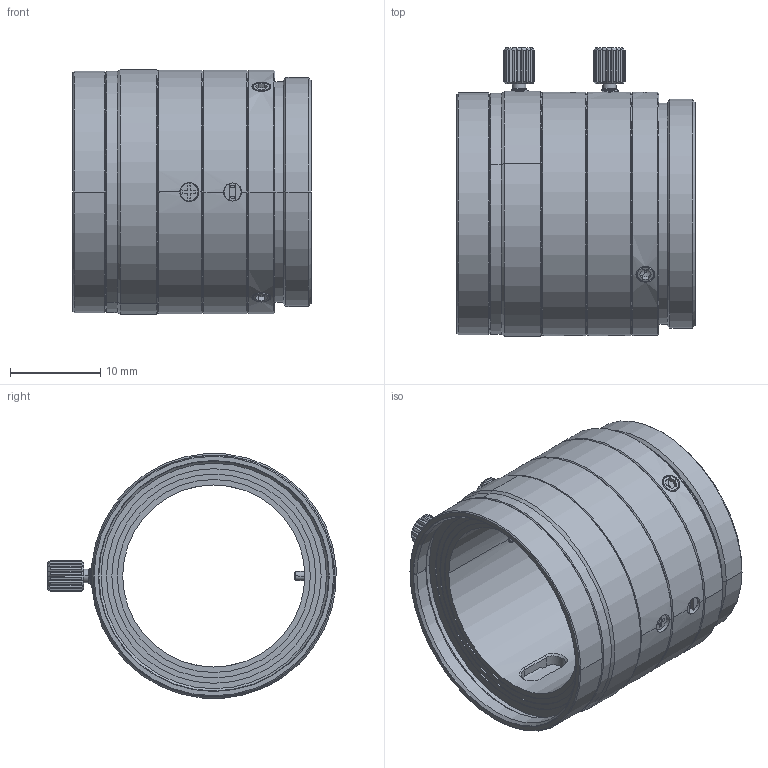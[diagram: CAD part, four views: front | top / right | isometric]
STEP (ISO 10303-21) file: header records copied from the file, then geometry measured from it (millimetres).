
FILE_DESCRIPTION((''),'2;1');
FILE_NAME('VT-LEM1620_ASM','2022-02-07T',('Jennifer'),(''),'PRO/ENGINEER BY PARAMETRIC TECHNOLOGY CORPORATION, 2008380','PRO/ENGINEER BY PARAMETRIC TECHNOLOGY CORPORATION, 2008380','');
FILE_SCHEMA(('CONFIG_CONTROL_DESIGN'));
Length unit declared in the file: millimetre
Products named in the file (2): _VT-LEM1620; VT-LEM1620_ASM
Assembly tree (1 placements, depth 2):
  VT-LEM1620_ASM
    _VT-LEM1620
Bounding box: 26.4 x 31.97 x 27.13 mm (x, y, z)
Volume: 5695.8 mm3; surface area: 7684.5 mm2
Topology: 1 solids, 30 shells, 555 faces, 1406 edges, 891 vertices
Faces by surface type: cylinder 224, plane 189, cone 115, bspline 25, torus 2
Entity records: 21029 total; most frequent: CARTESIAN_POINT 8052, ORIENTED_EDGE 2730, DIRECTION 2563, EDGE_CURVE 1406, AXIS2_PLACEMENT_3D 993, VERTEX_POINT 891, EDGE_LOOP 598, VECTOR 577
